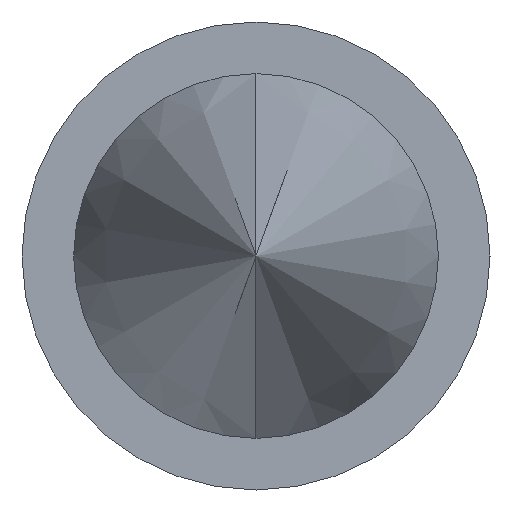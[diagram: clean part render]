
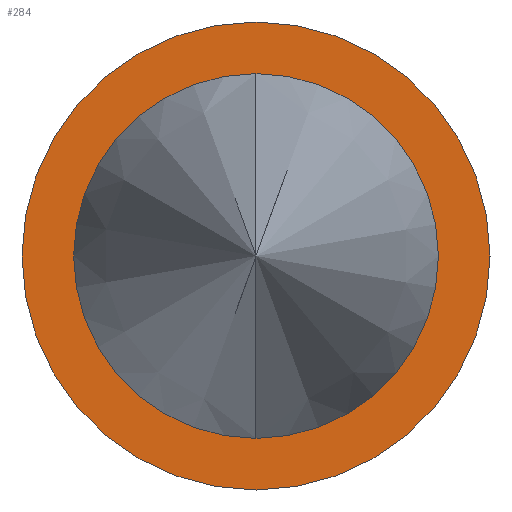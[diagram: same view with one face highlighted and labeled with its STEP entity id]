
A CAD part, left-side view. The second image highlights one B-rep face of the part: STEP entity #284.
In plain terms, the highlighted planar face has unit normal (-1, 0, 0).
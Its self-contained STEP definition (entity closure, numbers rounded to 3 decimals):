
#12 = CIRCLE ( 'NONE', #17, 0.265 ) ;
#17 = AXIS2_PLACEMENT_3D ( 'NONE', #83, #84, #85 ) ;
#22 = AXIS2_PLACEMENT_3D ( 'NONE', #208, #209, #210 ) ;
#26 = CIRCLE ( 'NONE', #22, 0.265 ) ;
#42 = AXIS2_PLACEMENT_3D ( 'NONE', #213, #119, #120 ) ;
#47 = CARTESIAN_POINT ( 'NONE',  ( 0., 0., -0.34 ) ) ;
#83 = CARTESIAN_POINT ( 'NONE',  ( 0., 0., 0. ) ) ;
#84 = DIRECTION ( 'NONE',  ( -1., 0., 0. ) ) ;
#85 = DIRECTION ( 'NONE',  ( 0., 0., 1. ) ) ;
#119 = DIRECTION ( 'NONE',  ( 1., 0., 0. ) ) ;
#120 = DIRECTION ( 'NONE',  ( 0., 0., -1. ) ) ;
#139 = DIRECTION ( 'NONE',  ( 0., 0., 1. ) ) ;
#141 = CARTESIAN_POINT ( 'NONE',  ( 0., 0., 0. ) ) ;
#142 = DIRECTION ( 'NONE',  ( -1., 0., 0. ) ) ;
#143 = DIRECTION ( 'NONE',  ( 0., 0., 1. ) ) ;
#152 = ORIENTED_EDGE ( 'NONE', *, *, #229, .T. ) ;
#153 = ORIENTED_EDGE ( 'NONE', *, *, #225, .T. ) ;
#207 = CARTESIAN_POINT ( 'NONE',  ( 0., 0., 0.265 ) ) ;
#208 = CARTESIAN_POINT ( 'NONE',  ( 0., 0., 0. ) ) ;
#209 = DIRECTION ( 'NONE',  ( -1., 0., 0. ) ) ;
#210 = DIRECTION ( 'NONE',  ( 0., 0., 1. ) ) ;
#211 = CARTESIAN_POINT ( 'NONE',  ( 0., 0., 0.34 ) ) ;
#212 = CARTESIAN_POINT ( 'NONE',  ( 0., 0., -0.265 ) ) ;
#213 = CARTESIAN_POINT ( 'NONE',  ( 0., 0.34, 0. ) ) ;
#214 = FACE_OUTER_BOUND ( 'NONE', #245, .T. ) ;
#220 = FACE_BOUND ( 'NONE', #246, .T. ) ;
#221 = PLANE ( 'NONE',  #42 ) ;
#225 = EDGE_CURVE ( 'NONE', #311, #263, #248, .T. ) ;
#229 = EDGE_CURVE ( 'NONE', #263, #311, #259, .T. ) ;
#234 = EDGE_CURVE ( 'NONE', #265, #261, #26, .T. ) ;
#245 = EDGE_LOOP ( 'NONE', ( #152, #153 ) ) ;
#246 = EDGE_LOOP ( 'NONE', ( #267, #306 ) ) ;
#248 = CIRCLE ( 'NONE', #254, 0.34 ) ;
#254 = AXIS2_PLACEMENT_3D ( 'NONE', #141, #142, #143 ) ;
#256 = AXIS2_PLACEMENT_3D ( 'NONE', #330, #331, #139 ) ;
#259 = CIRCLE ( 'NONE', #256, 0.34 ) ;
#261 = VERTEX_POINT ( 'NONE', #207 ) ;
#263 = VERTEX_POINT ( 'NONE', #211 ) ;
#265 = VERTEX_POINT ( 'NONE', #212 ) ;
#267 = ORIENTED_EDGE ( 'NONE', *, *, #299, .F. ) ;
#284 = ADVANCED_FACE ( 'NONE', ( #220, #214 ), #221, .F. ) ;
#299 = EDGE_CURVE ( 'NONE', #261, #265, #12, .T. ) ;
#306 = ORIENTED_EDGE ( 'NONE', *, *, #234, .F. ) ;
#311 = VERTEX_POINT ( 'NONE', #47 ) ;
#330 = CARTESIAN_POINT ( 'NONE',  ( 0., 0., 0. ) ) ;
#331 = DIRECTION ( 'NONE',  ( -1., 0., 0. ) ) ;
